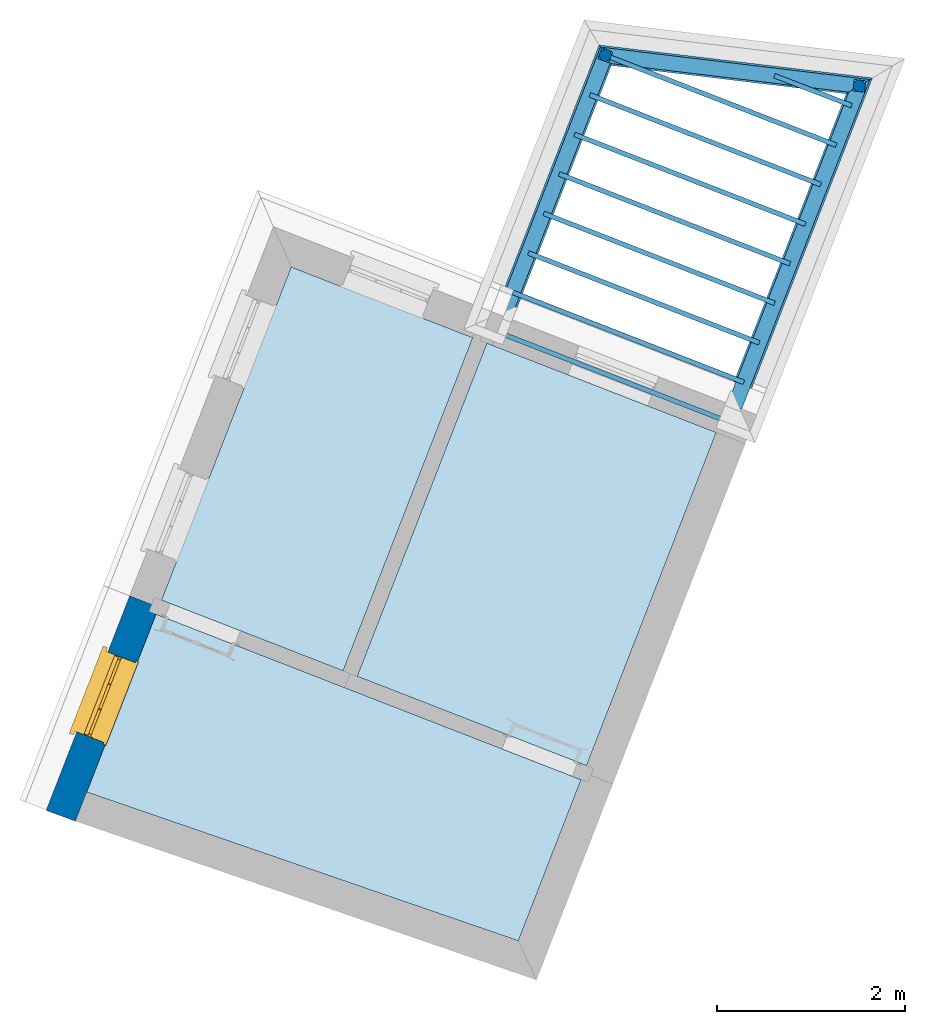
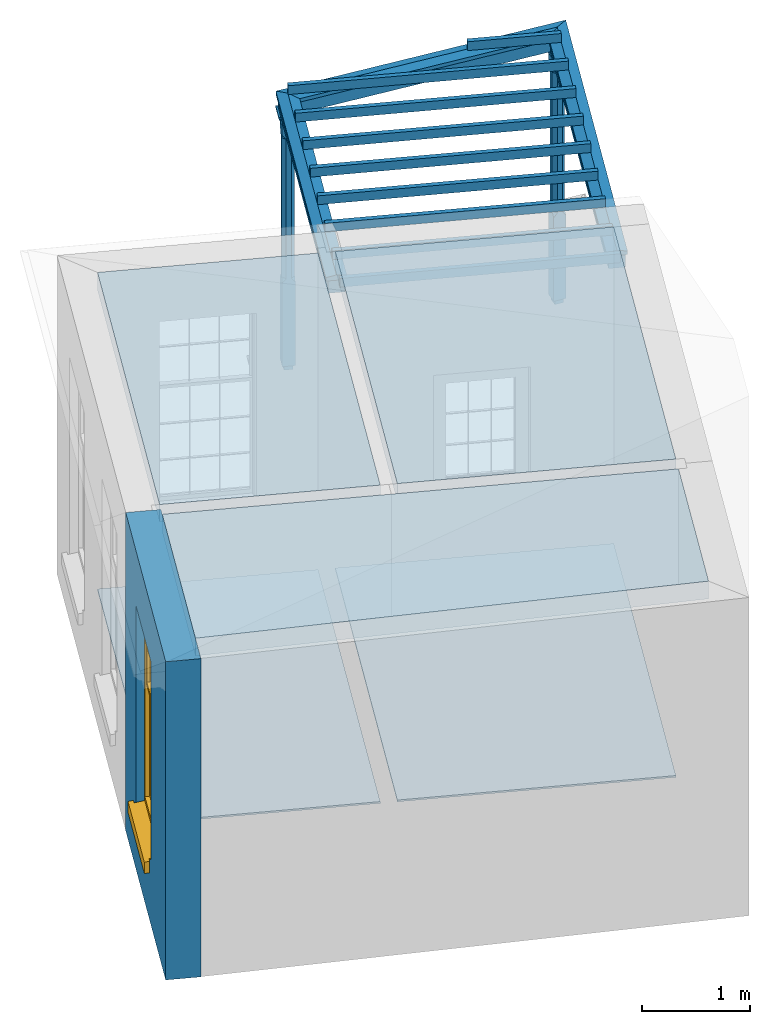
# One storey, part 1 of 4: 15 beams, 5 slabs, 2 columns, 1 wall, 1 window, 1 opening.
"""IFC4 building model written with IfcOpenShell, lengths in metres."""

import ifcopenshell
import ifcopenshell.guid

model = None  # the IFC model being written
_history = None  # IfcOwnerHistory: only IFC2X3 demands one
_inside = {}  # id of a spatial element -> (the spatial element, [elements in it])
_under = {}  # id of a project, library or spatial element -> (it, [spatial elements below it])
_declared = {}  # id of a project -> (the project, [libraries it declares])
_typed = {}  # id of a type object -> (the type object, [elements of that type])
_made_of = {}  # id of a material, layer set ... -> (it, [elements and type objects made of it])


def new_model(schema):
    """Start an empty IFC model of exactly this schema.

    Asked for "IFC4X3", IfcOpenShell would pick the latest addendum, in which some entities
    have other attributes; the version numbers below select the first issue.
    IFC2X3 requires an IfcOwnerHistory on every rooted entity: one is made here for all.
    """
    global model, _history
    if schema == "IFC4X3":
        model = ifcopenshell.file(schema_version=(4, 3, 0, 0))
    else:
        model = ifcopenshell.file(schema=schema)
    _inside.clear()
    _under.clear()
    _declared.clear()
    _typed.clear()
    _made_of.clear()
    _history = None
    if model.schema == "IFC2X3":
        org = make("IfcOrganization", Name="unknown")
        user = make(
            "IfcPersonAndOrganization",
            ThePerson=make("IfcPerson", FamilyName="unknown"),
            TheOrganization=org,
        )
        app = make(
            "IfcApplication",
            ApplicationDeveloper=org,
            Version="unknown",
            ApplicationFullName="unknown",
            ApplicationIdentifier="unknown",
        )
        _history = make(
            "IfcOwnerHistory",
            OwningUser=user,
            OwningApplication=app,
            ChangeAction="ADDED",
            CreationDate=0,
        )
    return model


def make(cls, **values):
    """One entity of the class cls with the attributes given. An attribute that is None is left unset."""
    return model.create_entity(
        cls, **{name: value for name, value in values.items() if value is not None}
    )


def rooted(cls, **values):
    """An entity with a GlobalId (a new one), such as an element, a storey or a relation."""
    return make(cls, GlobalId=ifcopenshell.guid.new(), OwnerHistory=_history, **values)


def si_unit(unit_type, name, prefix=None):
    """IfcSIUnit, for example si_unit("LENGTHUNIT", "METRE", prefix="MILLI")."""
    return make("IfcSIUnit", UnitType=unit_type, Prefix=prefix, Name=name)


def assignment(units):
    """IfcUnitAssignment: the units of a project."""
    return None if units is None else make("IfcUnitAssignment", Units=units)


def point(xyz):
    """IfcCartesianPoint."""
    return None if xyz is None else make("IfcCartesianPoint", Coordinates=xyz)


def direction(xyz):
    """IfcDirection."""
    return None if xyz is None else make("IfcDirection", DirectionRatios=xyz)


def frame(location, z_axis=None, x_axis=None):
    """IfcAxis2Placement3D, a coordinate frame: its origin and axes. An axis left out is left unset."""
    return make(
        "IfcAxis2Placement3D",
        Location=point(location),
        Axis=direction(z_axis),
        RefDirection=direction(x_axis),
    )


def origin():
    """The frame at (0, 0, 0) with its axes left unset."""
    return frame((0.0, 0.0, 0.0))


def origin_with_axes():
    """The frame at (0, 0, 0) with the z axis (0, 0, 1) and the x axis (1, 0, 0) written out."""
    return frame((0.0, 0.0, 0.0), z_axis=(0.0, 0.0, 1.0), x_axis=(1.0, 0.0, 0.0))


def place(relative_to, where):
    """IfcLocalPlacement: puts the frame where relative to a parent placement (None: the world)."""
    return make(
        "IfcLocalPlacement", PlacementRelTo=relative_to, RelativePlacement=where
    )


def context(
    kind, dimensions, precision=None, world=None, true_north=None, identifier=None
):
    """IfcGeometricRepresentationContext, for example the 3D "Model" context."""
    return make(
        "IfcGeometricRepresentationContext",
        ContextIdentifier=identifier,
        ContextType=kind,
        CoordinateSpaceDimension=dimensions,
        Precision=precision,
        WorldCoordinateSystem=world,
        TrueNorth=true_north,
    )


def subcontext(parent, identifier, kind, view, scale=None):
    """IfcGeometricRepresentationSubContext, for example "Body" below "Model"."""
    return make(
        "IfcGeometricRepresentationSubContext",
        ContextIdentifier=identifier,
        ContextType=kind,
        ParentContext=parent,
        TargetScale=scale,
        TargetView=view,
    )


def project(units=None, contexts=None):
    """IfcProject with its units and contexts."""
    return rooted(
        "IfcProject",
        Name="project",
        RepresentationContexts=contexts,
        UnitsInContext=assignment(units),
    )


def spatial(cls, under=None, at=None, **own):
    """A site, building, storey or space (cls), placed at a placement, below another one or the project."""
    s = rooted(cls, ObjectPlacement=at, **own)
    if under is not None:
        _under.setdefault(under.id(), (under, []))[1].append(s)
    return s


def polyline(points):
    """IfcPolyline through the points."""
    return make("IfcPolyline", Points=[point(p) for p in points])


def outline(outer, holes=None, kind="AREA"):
    """IfcArbitraryClosedProfileDef: a profile drawn as a closed curve; with holes, ...WithVoids."""
    if holes is None:
        return make("IfcArbitraryClosedProfileDef", ProfileType=kind, OuterCurve=outer)
    return make(
        "IfcArbitraryProfileDefWithVoids",
        ProfileType=kind,
        OuterCurve=outer,
        InnerCurves=holes,
    )


def extrude(swept, where, along, depth):
    """IfcExtrudedAreaSolid: the profile swept, set in the frame where, extruded along a direction by depth."""
    return make(
        "IfcExtrudedAreaSolid",
        SweptArea=swept,
        Position=where,
        ExtrudedDirection=direction(along),
        Depth=depth,
    )


def clip(a, b, op="DIFFERENCE"):
    """IfcBooleanClippingResult: the solid a cut by the half space b."""
    return make(
        "IfcBooleanClippingResult", Operator=op, FirstOperand=a, SecondOperand=b
    )


def halfspace(plane, agree):
    """IfcHalfSpaceSolid: all space on one side of the plane z = 0 of the frame plane."""
    return make(
        "IfcHalfSpaceSolid",
        BaseSurface=make("IfcPlane", Position=plane),
        AgreementFlag=agree,
    )


def faces_of(points, faces, orient=None, outer=None):
    """IfcFace entities. A face is a list of loops; a loop is a list of indices into points, from 0.

    orient and outer hold one flag for each loop. By default every Orientation is true, the
    first loop of a face is its IfcFaceOuterBound and the others are IfcFaceBound.
    """
    made = []
    for i, loops in enumerate(faces):
        bounds = []
        for j, loop in enumerate(loops):
            is_outer = j == 0 if outer is None else outer[i][j]
            bounds.append(
                make(
                    "IfcFaceOuterBound" if is_outer else "IfcFaceBound",
                    Bound=make("IfcPolyLoop", Polygon=[points[k] for k in loop]),
                    Orientation=True if orient is None else orient[i][j],
                )
            )
        made.append(make("IfcFace", Bounds=bounds))
    return made


def faceted_brep(points, faces, orient=None, outer=None, voids=None):
    """IfcFacetedBrep: a solid bounded by flat faces; with voids (closed shells), ...WithVoids."""
    shared = [point(p) for p in points]
    hull = make("IfcClosedShell", CfsFaces=faces_of(shared, faces, orient, outer))
    if voids is None:
        return make("IfcFacetedBrep", Outer=hull)
    return make(
        "IfcFacetedBrepWithVoids",
        Outer=hull,
        Voids=[
            make(cls, CfsFaces=faces_of(shared, fs, o, b)) for cls, fs, o, b in voids
        ],
    )


def shape(context_of_items, identifier, shape_type, items):
    """IfcShapeRepresentation: the items that make up one representation, for example the "Body"."""
    return make(
        "IfcShapeRepresentation",
        ContextOfItems=context_of_items,
        RepresentationIdentifier=identifier,
        RepresentationType=shape_type,
        Items=items,
    )


def source(mapping_origin, context_of_items, identifier, shape_type, items):
    """IfcRepresentationMap: a shape defined once, which mapped items show again and again."""
    return make(
        "IfcRepresentationMap",
        MappingOrigin=mapping_origin,
        MappedRepresentation=shape(context_of_items, identifier, shape_type, items),
    )


def transform(
    local_origin,
    x_axis=None,
    y_axis=None,
    z_axis=None,
    scale=None,
    scale2=None,
    scale3=None,
    uniform=True,
):
    """IfcCartesianTransformationOperator3D, or its non-uniform kind. x_axis, y_axis, z_axis: its Axis1, 2, 3."""
    if uniform:
        return make(
            "IfcCartesianTransformationOperator3D",
            Axis1=direction(x_axis),
            Axis2=direction(y_axis),
            LocalOrigin=point(local_origin),
            Scale=scale,
            Axis3=direction(z_axis),
        )
    return make(
        "IfcCartesianTransformationOperator3DnonUniform",
        Axis1=direction(x_axis),
        Axis2=direction(y_axis),
        LocalOrigin=point(local_origin),
        Scale=scale,
        Axis3=direction(z_axis),
        Scale2=scale2,
        Scale3=scale3,
    )


def mapped(mapping_source, mapping_target):
    """IfcMappedItem: shows the shape of a source again, moved by a transform."""
    return make(
        "IfcMappedItem", MappingSource=mapping_source, MappingTarget=mapping_target
    )


def material(Name=None, Category=None):
    """IfcMaterial."""
    return make("IfcMaterial", Name=Name, Category=Category)


def layer(
    of_material, thickness, ventilated=None, Name=None, Category=None, Priority=None
):
    """IfcMaterialLayer: one layer of a wall or slab, of a material (None: an air gap)."""
    return make(
        "IfcMaterialLayer",
        Material=of_material,
        LayerThickness=thickness,
        IsVentilated=ventilated,
        Name=Name,
        Category=Category,
        Priority=Priority,
    )


def layer_set(layers, Name=None):
    """IfcMaterialLayerSet."""
    return make("IfcMaterialLayerSet", MaterialLayers=layers, LayerSetName=Name)


def layer_usage(for_layer_set, set_direction, sense, offset, extent=None):
    """IfcMaterialLayerSetUsage: how a layer set lies in its element."""
    return make(
        "IfcMaterialLayerSetUsage",
        ForLayerSet=for_layer_set,
        LayerSetDirection=set_direction,
        DirectionSense=sense,
        OffsetFromReferenceLine=offset,
        ReferenceExtent=extent,
    )


def material_profile(
    of_material, cross_section, Name=None, Category=None, Priority=None
):
    """IfcMaterialProfile: a cross section and its material."""
    return make(
        "IfcMaterialProfile",
        Name=Name,
        Material=of_material,
        Profile=cross_section,
        Priority=Priority,
        Category=Category,
    )


def profile_set(profiles, Name=None, composite=None):
    """IfcMaterialProfileSet."""
    return make(
        "IfcMaterialProfileSet",
        Name=Name,
        MaterialProfiles=profiles,
        CompositeProfile=composite,
    )


def profile_usage(for_profile_set, cardinal=None, extent=None):
    """IfcMaterialProfileSetUsage: how a profile set lies along its element."""
    return make(
        "IfcMaterialProfileSetUsage",
        ForProfileSet=for_profile_set,
        CardinalPoint=cardinal,
        ReferenceExtent=extent,
    )


def made_of(thing, what):
    """Note that an element or type object is made of a material, layer set ...; save() writes the relation."""
    if what is not None:
        _made_of.setdefault(what.id(), (what, []))[1].append(thing)
    return thing


def type_object(cls, material=None, **own):
    """A type object (cls), such as IfcWallType, which elements share."""
    return made_of(rooted(cls, **own), material)


def type_shapes(of_type, sources):
    """Give a type object the sources (RepresentationMaps) that its elements show as mapped items."""
    of_type.RepresentationMaps = sources


def element(
    cls,
    number,
    at=None,
    inside=None,
    cuts=None,
    type_object=None,
    material=None,
    context=None,
    identifier="Body",
    shape_type=None,
    held_by="IfcProductDefinitionShape",
    body=None,
    shapes=None,
    **own,
):
    """One element of the class cls, such as IfcWall. Its Tag is "e" and its number.

    at: its placement. inside: the storey or other place that contains it. cuts: it is an
    opening in that element (IfcRelVoidsElement). A single representation is given by context,
    identifier, shape_type and body (its items); several are given by shapes. held_by: the class
    of the entity that holds the representations. save() writes the other relations.
    """
    e = rooted(cls, Tag="e%d" % number, ObjectPlacement=at, **own)
    if body is not None:
        shapes = [shape(context, identifier, shape_type, body)]
    if shapes is not None:
        e.Representation = make(held_by, Representations=shapes)
    if inside is not None:
        _inside.setdefault(inside.id(), (inside, []))[1].append(e)
    if cuts is not None:
        rooted(
            "IfcRelVoidsElement", RelatingBuildingElement=cuts, RelatedOpeningElement=e
        )
    if type_object is not None:
        _typed.setdefault(type_object.id(), (type_object, []))[1].append(e)
    return made_of(e, material)


def fill(opening, filler):
    """IfcRelFillsElement: the door or window that sits in an opening."""
    return rooted(
        "IfcRelFillsElement",
        RelatingOpeningElement=opening,
        RelatedBuildingElement=filler,
    )


def aggregate(whole, parts):
    """IfcRelAggregates: a whole, such as a stair, and the parts it consists of."""
    return rooted("IfcRelAggregates", RelatingObject=whole, RelatedObjects=parts)


def save(model, path):
    """Write the relations noted so far, then the file.

    IfcRelAggregates (storeys below a building ...), IfcRelContainedInSpatialStructure (elements
    in a storey), IfcRelDefinesByType, IfcRelAssociatesMaterial and IfcRelDeclares: one each for
    every whole, place, type object, material and project.
    """
    for whole, parts in _under.values():
        aggregate(whole, parts)
    for where, things in _inside.values():
        rooted(
            "IfcRelContainedInSpatialStructure",
            RelatedElements=things,
            RelatingStructure=where,
        )
    for kind, things in _typed.values():
        rooted("IfcRelDefinesByType", RelatedObjects=things, RelatingType=kind)
    for what, things in _made_of.values():
        rooted("IfcRelAssociatesMaterial", RelatedObjects=things, RelatingMaterial=what)
    for by, libraries in _declared.values():
        rooted("IfcRelDeclares", RelatingContext=by, RelatedDefinitions=libraries)
    model.write(path)


model = new_model("IFC4")

# Units and contexts
model_context = context("Model", 3, world=origin_with_axes())
body_context = subcontext(model_context, "Body", "Model", "MODEL_VIEW")
ifc_project = project(units=[si_unit("PLANEANGLEUNIT", "RADIAN"), si_unit("MASSUNIT", "GRAM", prefix="KILO"), si_unit("FORCEUNIT", "NEWTON", prefix="KILO"), si_unit("LENGTHUNIT", "METRE"), si_unit("AREAUNIT", "SQUARE_METRE"), si_unit("VOLUMEUNIT", "CUBIC_METRE")], contexts=[model_context, model_context])

# Sites, building, storey
site_1_placement = place(None, origin_with_axes())
site_1 = spatial("IfcSite", under=ifc_project, at=site_1_placement, Name="Tamar")
site_2_placement = place(site_1_placement, origin_with_axes())
site_2 = spatial("IfcSite", under=site_1, at=site_2_placement, Name="Site plot-9", CompositionType="ELEMENT")
building_placement = place(None, origin_with_axes())
building = spatial("IfcBuilding", under=site_2, at=building_placement, Name="Building plot-9", CompositionType="ELEMENT")
storey_placement = place(None, frame((0.0, 0.0, 30.1), z_axis=(0.0, 0.0, 1.0), x_axis=(1.0, 0.0, 0.0)))
storey = spatial("IfcBuildingStorey", under=building, at=storey_placement, Name="plot-9 1", CompositionType="ELEMENT", Elevation=30.1)

# Columns
column_type = type_object("IfcColumnType", Name="pergola post", PredefinedType="NOTDEFINED")
shared_shape_1 = source(origin(), body_context, "Body", "Brep", [
    faceted_brep([(0.0246, -0.0615, 2.62), (0.0615, -0.0246, 2.62), (0.0615, -0.0615, 2.666667), (0.0615, -0.0246, 1.044444), (0.0246, -0.0615, 1.044444), (0.0615, 0.0246, 2.62), (0.0615, 0.0615, 2.666667), (-0.0246, -0.0615, 2.62), (-0.0615, -0.0615, 2.666667), (-0.0246, -0.0615, 1.044444), (0.0615, -0.0615, 0.997778), (0.0615, 0.0246, 1.044444), (0.0246, 0.0615, 2.62), (0.0615, 0.0615, 2.791111), (0.0615, -0.0615, 2.791111), (-0.0615, -0.0615, 2.791111), (-0.0615, -0.0246, 2.62), (-0.0615, -0.0246, 1.044444), (-0.0615, -0.0615, 0.997778), (0.0615, 0.0615, 0.997778), (0.0246, 0.0615, 1.044444), (-0.0246, 0.0615, 2.62), (-0.0615, 0.0615, 2.666667), (0.04305, 0.04305, 2.791111), (0.04305, -0.04305, 2.791111), (-0.0615, 0.0615, 2.791111), (-0.04305, -0.04305, 2.791111), (-0.0615, 0.0246, 2.62), (-0.0615, 0.0246, 1.044444), (0.0615, -0.0615, 0.053333), (-0.0615, -0.0615, 0.053333), (0.0615, 0.0615, 0.053333), (-0.0246, 0.0615, 1.044444), (-0.04305, 0.04305, 2.791111), (0.04305, 0.04305, 2.814444), (0.04305, -0.04305, 2.814444), (-0.04305, -0.04305, 2.814444), (-0.0615, 0.0615, 0.997778), (-0.0615, 0.0615, 0.053333), (-0.04305, -0.04305, 0.053333), (0.04305, -0.04305, 0.053333), (0.04305, 0.04305, 0.053333), (-0.04305, 0.04305, 2.814444), (0.07995, 0.07995, 2.814444), (0.07995, -0.07995, 2.814444), (-0.07995, -0.07995, 2.814444), (-0.04305, 0.04305, 0.053333), (-0.04305, -0.04305, 0.0), (0.04305, -0.04305, 0.0), (0.04305, 0.04305, 0.0), (-0.07995, 0.07995, 2.814444), (0.07995, 0.07995, 2.876667), (0.07995, -0.07995, 2.876667), (-0.07995, -0.07995, 2.876667), (-0.04305, 0.04305, 0.0), (-0.07995, 0.07995, 2.876667), (0.0984, 0.0984, 2.876667), (0.0984, -0.0984, 2.876667), (-0.0984, -0.0984, 2.876667), (-0.0984, 0.0984, 2.876667), (0.0984, 0.0984, 2.9), (0.0984, -0.0984, 2.9), (-0.0984, -0.0984, 2.9), (-0.0984, 0.0984, 2.9)], [[[0, 1, 2]], [[3, 1, 0, 4]], [[1, 5, 6, 2]], [[7, 0, 2, 8]], [[4, 0, 7, 9]], [[3, 4, 10]], [[1, 3, 11, 5]], [[5, 12, 6]], [[13, 14, 2, 6]], [[15, 8, 2, 14]], [[8, 16, 7]], [[9, 7, 16, 17]], [[9, 18, 10, 4]], [[3, 10, 19, 11]], [[20, 12, 5, 11]], [[21, 22, 6, 12]], [[14, 13, 23, 24]], [[13, 6, 22, 25]], [[25, 22, 8, 15]], [[26, 15, 14, 24]], [[16, 8, 22, 27]], [[27, 28, 17, 16]], [[17, 18, 9]], [[29, 10, 18, 30]], [[31, 19, 10, 29]], [[20, 11, 19]], [[12, 20, 32, 21]], [[21, 27, 22]], [[33, 23, 13, 25]], [[23, 34, 35, 24]], [[26, 33, 25, 15]], [[36, 26, 24, 35]], [[28, 27, 21, 32]], [[17, 28, 37, 18]], [[38, 30, 18, 37]], [[29, 30, 39, 40]], [[31, 38, 37, 19]], [[40, 41, 31, 29]], [[32, 20, 19, 37]], [[33, 42, 34, 23]], [[43, 44, 35, 34]], [[42, 33, 26, 36]], [[36, 35, 44, 45]], [[28, 32, 37]], [[46, 39, 30, 38]], [[39, 47, 48, 40]], [[46, 38, 31, 41]], [[49, 41, 40, 48]], [[43, 34, 42, 50]], [[43, 51, 52, 44]], [[45, 50, 42, 36]], [[53, 45, 44, 52]], [[46, 54, 47, 39]], [[54, 46, 41, 49]], [[50, 55, 51, 43]], [[56, 57, 52, 51]], [[55, 50, 45, 53]], [[53, 52, 57, 58]], [[56, 51, 55, 59]], [[56, 60, 61, 57]], [[58, 59, 55, 53]], [[62, 58, 57, 61]], [[59, 63, 60, 56]], [[63, 62, 61, 60]], [[58, 62, 63, 59]], [[47, 54, 49, 48]]]),
])
type_shapes(column_type, [shared_shape_1])
for number, where, z_axis, x_axis, name in (
    (1, (231.923680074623, 322.713005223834, 0.0), (0.0, 0.0, 1.0), (-0.992835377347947, 0.119490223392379, 0.0), "pergola post"),
    (2, (229.22819960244, 323.037413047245, 0.0), (0.0, 0.0, 1.0), (-0.362808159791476, -0.931863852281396, 0.0), "pergola post"),
):
    element("IfcColumn", number, at=place(storey_placement, frame(where, z_axis=z_axis, x_axis=x_axis)), inside=storey, type_object=column_type, Name=name, context=body_context, shape_type="MappedRepresentation", body=[
        mapped(shared_shape_1, transform((0.0, 0.0, 0.0), scale=1.0)),
    ])

# Beams
ifc_material_profile_1 = material_profile(None, outline(polyline([(-0.08, -0.7), (0.08, -0.7), (0.08, -0.56), (-0.08, -0.56), (-0.08, -0.7)])))
ifc_profile_set_1 = profile_set([ifc_material_profile_1])
ifc_profile_usage_1 = profile_usage(ifc_profile_set_1)
beam_type_1 = type_object("IfcBeamType", Name="pergola beam_0", PredefinedType="NOTDEFINED", material=ifc_profile_set_1)
beam_1_placement = place(storey_placement, frame((232.286488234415, 323.644869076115, 3.6), z_axis=(-0.362808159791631, -0.931863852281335, 0.0), x_axis=(0.931863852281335, -0.362808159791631, 0.0)))
element("IfcBeam", 3, at=beam_1_placement, inside=storey, type_object=beam_type_1, material=ifc_profile_usage_1, Name="pergola beam_0", context=body_context, shape_type="Clipping", body=[
    clip(clip(extrude(outline(polyline([(-0.08, -0.7), (0.08, -0.7), (0.08, -0.56), (-0.08, -0.56), (-0.08, -0.7)])), origin_with_axes(), (0.0, 0.0, 1.0), 5.64762004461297), halfspace(frame((0.0, 0.0, 4.64762004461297), z_axis=(2.05889159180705e-14, 0.0, -1.0), x_axis=(0.0, 1.0, 0.0)), True)), halfspace(frame((0.0, 0.0, 1.0), z_axis=(-0.79020888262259, 0.0, -0.612837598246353), x_axis=(0.0, 1.0, 0.0)), False)),
])
ifc_profile_usage_2 = profile_usage(ifc_profile_set_1)
beam_2_placement = place(storey_placement, frame((228.235364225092, 323.156903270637, 3.6), z_axis=(0.992835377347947, -0.119490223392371, 0.0), x_axis=(0.119490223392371, 0.992835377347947, 0.0)))
element("IfcBeam", 4, at=beam_2_placement, inside=storey, type_object=beam_type_1, material=ifc_profile_usage_2, Name="pergola beam_0", context=body_context, shape_type="Clipping", body=[
    clip(clip(extrude(outline(polyline([(-0.08, -0.7), (0.08, -0.7), (0.08, -0.56), (-0.08, -0.56), (-0.08, -0.7)])), origin_with_axes(), (0.0, 0.0, 1.0), 4.71493193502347), halfspace(frame((0.0, 0.0, 3.71493193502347), z_axis=(0.790208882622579, 0.0, -0.612837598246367), x_axis=(0.0, 1.0, 0.0)), True)), halfspace(frame((0.0, 0.0, 1.0), z_axis=(-0.612837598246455, 0.0, -0.790208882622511), x_axis=(0.0, 1.0, 0.0)), False)),
])
ifc_profile_usage_3 = profile_usage(ifc_profile_set_1)
beam_3_placement = place(storey_placement, frame((227.787132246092, 319.336066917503, 3.6), z_axis=(0.362808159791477, 0.931863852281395, 0.0), x_axis=(-0.931863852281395, 0.362808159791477, 0.0)))
element("IfcBeam", 5, at=beam_3_placement, inside=storey, type_object=beam_type_1, material=ifc_profile_usage_3, Name="pergola beam_0", context=body_context, shape_type="Clipping", body=[
    clip(clip(extrude(outline(polyline([(-0.08, -0.7), (0.08, -0.7), (0.08, -0.56), (-0.08, -0.56), (-0.08, -0.7)])), origin_with_axes(), (0.0, 0.0, 1.0), 4.97198165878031), halfspace(frame((0.0, 0.0, 3.97198165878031), z_axis=(0.612837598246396, 0.0, -0.790208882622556), x_axis=(0.0, 1.0, 0.0)), True)), halfspace(frame((0.0, 0.0, 1.0), z_axis=(7.04419501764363e-15, 0.0, -1.0), x_axis=(0.0, 1.0, 0.0)), False)),
])
ifc_material_profile_2 = material_profile(None, outline(polyline([(0.0, -0.5), (-0.1, -0.52), (-0.1, -0.56), (0.1, -0.56), (0.1, -0.52), (0.0, -0.5)])))
ifc_profile_set_2 = profile_set([ifc_material_profile_2])
ifc_profile_usage_4 = profile_usage(ifc_profile_set_2)
beam_type_2 = type_object("IfcBeamType", Name="pergola beam_1", PredefinedType="NOTDEFINED", material=ifc_profile_set_2)
beam_4_placement = place(storey_placement, frame((232.286488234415, 323.644869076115, 3.6), z_axis=(-0.362808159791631, -0.931863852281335, 0.0), x_axis=(0.931863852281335, -0.362808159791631, 0.0)))
element("IfcBeam", 6, at=beam_4_placement, inside=storey, type_object=beam_type_2, material=ifc_profile_usage_4, Name="pergola beam_1", context=body_context, shape_type="Clipping", body=[
    clip(clip(extrude(outline(polyline([(0.0, -0.5), (-0.1, -0.52), (-0.1, -0.56), (0.1, -0.56), (0.1, -0.52), (0.0, -0.5)])), origin_with_axes(), (0.0, 0.0, 1.0), 5.64762004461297), halfspace(frame((0.0, 0.0, 4.64762004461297), z_axis=(2.05889159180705e-14, 0.0, -1.0), x_axis=(0.0, 1.0, 0.0)), True)), halfspace(frame((0.0, 0.0, 1.0), z_axis=(-0.79020888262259, 0.0, -0.612837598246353), x_axis=(0.0, 1.0, 0.0)), False)),
])
ifc_profile_usage_5 = profile_usage(ifc_profile_set_2)
beam_5_placement = place(storey_placement, frame((228.235364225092, 323.156903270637, 3.6), z_axis=(0.992835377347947, -0.119490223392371, 0.0), x_axis=(0.119490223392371, 0.992835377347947, 0.0)))
element("IfcBeam", 7, at=beam_5_placement, inside=storey, type_object=beam_type_2, material=ifc_profile_usage_5, Name="pergola beam_1", context=body_context, shape_type="Clipping", body=[
    clip(clip(extrude(outline(polyline([(0.0, -0.5), (-0.1, -0.52), (-0.1, -0.56), (0.1, -0.56), (0.1, -0.52), (0.0, -0.5)])), origin_with_axes(), (0.0, 0.0, 1.0), 4.71493193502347), halfspace(frame((0.0, 0.0, 3.71493193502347), z_axis=(0.790208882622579, 0.0, -0.612837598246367), x_axis=(0.0, 1.0, 0.0)), True)), halfspace(frame((0.0, 0.0, 1.0), z_axis=(-0.612837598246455, 0.0, -0.790208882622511), x_axis=(0.0, 1.0, 0.0)), False)),
])
ifc_profile_usage_6 = profile_usage(ifc_profile_set_2)
beam_6_placement = place(storey_placement, frame((227.787132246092, 319.336066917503, 3.6), z_axis=(0.362808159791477, 0.931863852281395, 0.0), x_axis=(-0.931863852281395, 0.362808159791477, 0.0)))
element("IfcBeam", 8, at=beam_6_placement, inside=storey, type_object=beam_type_2, material=ifc_profile_usage_6, Name="pergola beam_1", context=body_context, shape_type="Clipping", body=[
    clip(clip(extrude(outline(polyline([(0.0, -0.5), (-0.1, -0.52), (-0.1, -0.56), (0.1, -0.56), (0.1, -0.52), (0.0, -0.5)])), origin_with_axes(), (0.0, 0.0, 1.0), 4.97198165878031), halfspace(frame((0.0, 0.0, 3.97198165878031), z_axis=(0.612837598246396, 0.0, -0.790208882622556), x_axis=(0.0, 1.0, 0.0)), True)), halfspace(frame((0.0, 0.0, 1.0), z_axis=(7.04419501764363e-15, 0.0, -1.0), x_axis=(0.0, 1.0, 0.0)), False)),
])
beam_7_placement = place(storey_placement, frame((231.03255888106, 322.844642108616, 3.1)))
element("IfcBeam", 9, at=beam_7_placement, inside=storey, Name="My Beam", ObjectType="Beam", context=body_context, shape_type="SweptSolid", body=[
    extrude(outline(polyline([(0.0, 0.0), (-0.0181404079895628, -0.0465931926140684), (0.800187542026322, -0.365197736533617), (0.818327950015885, -0.318604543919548), (0.0, 0.0)])), origin_with_axes(), (0.0, 0.0, 1.0), 0.1),
])
beam_8_placement = place(storey_placement, frame((229.237269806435, 323.060709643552, 3.1)))
element("IfcBeam", 10, at=beam_8_placement, inside=storey, Name="My Beam", ObjectType="Beam", context=body_context, shape_type="SweptSolid", body=[
    extrude(outline(polyline([(0.0, 0.0), (-0.0181404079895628, -0.0465931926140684), (2.43221294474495, -1.00060400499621), (2.45035335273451, -0.954010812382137), (0.0, 0.0)])), origin_with_axes(), (0.0, 0.0, 1.0), 0.1),
])
beam_9_placement = place(storey_placement, frame((229.074006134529, 322.641370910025, 3.1)))
element("IfcBeam", 11, at=beam_9_placement, inside=storey, Name="My Beam", ObjectType="Beam", context=body_context, shape_type="SweptSolid", body=[
    extrude(outline(polyline([(0.0, 0.0), (-0.0181404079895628, -0.0465931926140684), (2.43221294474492, -1.00060400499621), (2.45035335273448, -0.954010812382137), (0.0, 0.0)])), origin_with_axes(), (0.0, 0.0, 1.0), 0.1),
])
beam_10_placement = place(storey_placement, frame((228.910742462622, 322.222032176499, 3.1)))
element("IfcBeam", 12, at=beam_10_placement, inside=storey, Name="My Beam", ObjectType="Beam", context=body_context, shape_type="SweptSolid", body=[
    extrude(outline(polyline([(0.0, 0.0), (-0.0181404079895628, -0.0465931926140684), (2.43221294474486, -1.00060400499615), (2.45035335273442, -0.95401081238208), (0.0, 0.0)])), origin_with_axes(), (0.0, 0.0, 1.0), 0.1),
])
beam_11_placement = place(storey_placement, frame((228.747478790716, 321.802693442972, 3.1)))
element("IfcBeam", 13, at=beam_11_placement, inside=storey, Name="My Beam", ObjectType="Beam", context=body_context, shape_type="SweptSolid", body=[
    extrude(outline(polyline([(0.0, 0.0), (-0.0181404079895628, -0.0465931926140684), (2.43221294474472, -1.00060400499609), (2.45035335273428, -0.954010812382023), (0.0, 0.0)])), origin_with_axes(), (0.0, 0.0, 1.0), 0.1),
])
beam_12_placement = place(storey_placement, frame((228.58421511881, 321.383354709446, 3.1)))
element("IfcBeam", 14, at=beam_12_placement, inside=storey, Name="My Beam", ObjectType="Beam", context=body_context, shape_type="SweptSolid", body=[
    extrude(outline(polyline([(0.0, 0.0), (-0.0181404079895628, -0.0465931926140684), (2.43221294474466, -1.00060400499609), (2.45035335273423, -0.954010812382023), (0.0, 0.0)])), origin_with_axes(), (0.0, 0.0, 1.0), 0.1),
])
beam_13_placement = place(storey_placement, frame((228.420951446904, 320.964015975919, 3.1)))
element("IfcBeam", 15, at=beam_13_placement, inside=storey, Name="My Beam", ObjectType="Beam", context=body_context, shape_type="SweptSolid", body=[
    extrude(outline(polyline([(0.0, 0.0), (-0.0181404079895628, -0.0465931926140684), (2.43221294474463, -1.00060400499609), (2.4503533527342, -0.954010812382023), (0.0, 0.0)])), origin_with_axes(), (0.0, 0.0, 1.0), 0.1),
])
beam_14_placement = place(storey_placement, frame((228.257687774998, 320.544677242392, 3.1)))
element("IfcBeam", 16, at=beam_14_placement, inside=storey, Name="My Beam", ObjectType="Beam", context=body_context, shape_type="SweptSolid", body=[
    extrude(outline(polyline([(0.0, 0.0), (-0.0181404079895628, -0.0465931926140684), (2.43221294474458, -1.00060400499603), (2.45035335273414, -0.954010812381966), (0.0, 0.0)])), origin_with_axes(), (0.0, 0.0, 1.0), 0.1),
])
beam_15_placement = place(storey_placement, frame((228.094424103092, 320.125338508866, 3.1)))
element("IfcBeam", 17, at=beam_15_placement, inside=storey, Name="My Beam", ObjectType="Beam", context=body_context, shape_type="SweptSolid", body=[
    extrude(outline(polyline([(0.0, 0.0), (-0.0181404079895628, -0.0465931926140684), (2.43221294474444, -1.00060400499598), (2.450353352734, -0.95401081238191), (0.0, 0.0)])), origin_with_axes(), (0.0, 0.0, 1.0), 0.1),
])

# Slabs
slab_1_placement = place(storey_placement, frame((226.596099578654, 316.448435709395, 3.4)))
element("IfcSlab", 18, at=slab_1_placement, inside=storey, Name="My Slab", ObjectType="Slab", PredefinedType="FLOOR", context=body_context, shape_type="SweptSolid", body=[
    extrude(outline(polyline([(0.0, 0.0), (2.43378865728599, -0.947561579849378), (3.80991837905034, 2.58699382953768), (1.37612972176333, 3.53455540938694), (0.0, 0.0)])), origin_with_axes(), (0.0, 0.0, 1.0), 0.2),
])
slab_2_placement = place(storey_placement, frame((226.596099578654, 316.448435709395, 0.0)))
element("IfcSlab", 19, at=slab_2_placement, inside=storey, Name="My Slab", ObjectType="Slab", PredefinedType="FLOOR", context=body_context, shape_type="SweptSolid", body=[
    extrude(outline(polyline([(0.0, 0.0), (2.43378865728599, -0.947561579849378), (3.80991837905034, 2.58699382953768), (1.37612972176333, 3.53455540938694), (0.0, 0.0)])), origin_with_axes(), (0.0, 0.0, 1.0), 0.02),
])
slab_3_placement = place(storey_placement, frame((227.823131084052, 320.041040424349, 3.4)))
element("IfcSlab", 20, at=slab_3_placement, inside=storey, Name="My Slab", ObjectType="Slab", PredefinedType="FLOOR", context=body_context, shape_type="SweptSolid", body=[
    extrude(outline(polyline([(0.0, 0.0), (-1.92733417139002, 0.750380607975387), (-3.30346389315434, -2.78417480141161), (-1.37612972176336, -3.534555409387), (0.0, 0.0)])), origin_with_axes(), (0.0, 0.0, 1.0), 0.2),
])
slab_4_placement = place(storey_placement, frame((227.823131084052, 320.041040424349, 0.0)))
element("IfcSlab", 21, at=slab_4_placement, inside=storey, Name="My Slab", ObjectType="Slab", PredefinedType="FLOOR", context=body_context, shape_type="SweptSolid", body=[
    extrude(outline(polyline([(0.0, 0.0), (-1.92733417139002, 0.750380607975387), (-3.30346389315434, -2.78417480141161), (-1.37612972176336, -3.534555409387), (0.0, 0.0)])), origin_with_axes(), (0.0, 0.0, 1.0), 0.02),
])
slab_5_placement = place(storey_placement, frame((224.461617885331, 317.107767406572, 3.4)))
element("IfcSlab", 22, at=slab_5_placement, inside=storey, Name="My Slab", ObjectType="Slab", PredefinedType="FLOOR", context=body_context, shape_type="SweptSolid", body=[
    extrude(outline(polyline([(0.0, 0.0), (-0.734966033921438, -1.88774221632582), (3.84438262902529, -3.4661811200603), (4.51022104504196, -1.75599149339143), (0.0, 0.0)])), origin_with_axes(), (0.0, 0.0, 1.0), 0.2),
])

# Wall, opening, window
ifc_material = material(Name="Masonry")
ifc_layer = layer(ifc_material, 0.33, ventilated=False)
ifc_layer_set = layer_set([ifc_layer], Name="exterior_0.08_0.25")
ifc_layer_usage = layer_usage(ifc_layer_set, "AXIS2", "POSITIVE", -0.25)
wall_type = type_object("IfcWallType", Name="exterior_0.08_0.25", PredefinedType="SOLIDWALL", material=ifc_layer_set)
wall_placement = place(storey_placement, frame((224.416093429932, 317.211341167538, 0.0), z_axis=(0.0, 0.0, 1.0), x_axis=(-0.36280815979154, -0.931863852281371, 0.0)))
wall = element("IfcWall", 23, at=wall_placement, inside=storey, type_object=wall_type, material=ifc_layer_usage, Name="exterior", context=body_context, shape_type="SweptSolid", body=[
    extrude(outline(polyline([(1.07144995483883e-14, 0.0800000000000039), (-1.03457477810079e-13, -0.250000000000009), (2.43898171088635, -0.249999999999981), (2.43898171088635, 0.0800000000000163), (1.07144995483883e-14, 0.0800000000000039)])), origin_with_axes(), (0.0, 0.0, 1.0), 3.6),
])
opening_placement = place(wall_placement, frame((0.639490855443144, 0.0, 0.75)))
opening = element("IfcOpeningElement", 24, at=opening_placement, cuts=wall, Name="My Opening", ObjectType="Opening", context=body_context, shape_type="SweptSolid", body=[
    extrude(outline(polyline([(0.0, -0.270000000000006), (0.910000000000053, -0.269999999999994), (0.910000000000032, 1.09999999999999), (-2.1538326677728e-14, 1.09999999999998), (0.0, -0.270000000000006)])), origin_with_axes(), (0.0, 0.0, 1.0), 2.23),
])
window_type = type_object("IfcWindowType", Name="sash_big_taller", PartitioningType="DOUBLE_PANEL_HORIZONTAL", PredefinedType="NOTDEFINED")
shared_shape_2 = source(origin(), body_context, "Body", "Brep", [
    faceted_brep([(0.033125, 0.145, 1.385209), (0.01, 0.145, 1.385209), (0.033125, 0.145, 1.786042), (0.876875, 0.145, 1.385209), (0.876875, 0.145, 1.786042), (0.9, 0.145, 1.385209), (0.876875, 0.145, 1.796042), (0.876875, 0.145, 2.196875), (0.9, 0.145, 2.22), (0.033125, 0.145, 2.196875), (0.033125, 0.145, 1.796042), (0.01, 0.145, 2.22), (0.876875, 0.115, 1.786042), (0.876875, 0.115, 1.385209), (0.9, 0.115, 1.347084), (0.033125, 0.115, 2.196875), (0.01, 0.115, 2.22), (0.033125, 0.115, 1.796042), (0.01, 0.115, 1.347084), (0.033125, 0.115, 1.385209), (0.033125, 0.115, 1.786042), (0.876875, 0.115, 2.196875), (0.876875, 0.115, 1.796042), (0.9, 0.115, 2.22), (0.033125, 0.145, 1.347084), (0.01, 0.145, 1.347084), (0.033125, 0.145, 0.94625), (0.876875, 0.145, 1.347084), (0.876875, 0.145, 0.94625), (0.9, 0.145, 1.347084), (0.876875, 0.145, 0.52625), (0.876875, 0.145, 0.125417), (0.9, 0.145, 0.077167), (0.033125, 0.145, 0.125417), (0.033125, 0.145, 0.52625), (0.01, 0.145, 0.077167), (-0.0425, 0.0, 0.01), (-0.0425, -0.05, 0.001667), (0.0, 0.0, 0.01), (0.9525, 0.0, 0.01), (0.91, 0.0, 0.01), (0.9525, -0.05, 0.001667), (-0.02, 0.33, 0.077167), (0.0, 0.33, 0.077167), (-0.02, 0.36, 0.077167), (0.0, 0.19, 0.077167), (0.01, 0.19, 0.077167), (0.91, 0.19, 0.077167), (0.91, 0.33, 0.077167), (0.9, 0.19, 0.077167), (0.93, 0.33, 0.077167), (0.93, 0.36, 0.077167), (0.01, 0.175, 1.385209), (0.9, 0.175, 1.385209), (0.876875, 0.175, 0.125417), (0.876875, 0.175, 0.52625), (0.9, 0.175, 0.077167), (0.876875, 0.175, 0.94625), (0.876875, 0.175, 1.347084), (0.033125, 0.175, 0.125417), (0.01, 0.175, 0.077167), (0.033125, 0.175, 0.52625), (0.033125, 0.175, 1.347084), (0.033125, 0.175, 0.94625), (-0.02, 0.33, 0.052167), (-0.02, 0.36, 0.052167), (0.93, 0.36, 0.052167), (0.93, 0.33, 0.052167), (0.91, 0.33, 0.052167), (0.0, 0.33, 0.052167), (0.91, 0.1, 0.026667), (0.0, 0.1, 0.026667), (-0.0425, -0.05, -0.123333), (0.9525, -0.05, -0.123333), (-0.0425, 0.0, -0.123333), (0.9525, 0.0, -0.123333), (0.01, 0.19, 2.22), (0.9, 0.19, 2.22), (0.0, 0.19, 2.23), (0.91, 0.19, 2.23), (0.01, 0.1, 0.077167), (0.9, 0.1, 0.077167), (0.592292, 0.145, 0.125417), (0.592292, 0.175, 0.125417), (0.317708, 0.175, 0.125417), (0.317708, 0.145, 0.125417), (0.592292, 0.145, 0.53625), (0.317708, 0.145, 0.53625), (0.317708, 0.145, 0.52625), (0.592292, 0.145, 0.52625), (0.592292, 0.175, 0.53625), (0.317708, 0.175, 0.53625), (0.592292, 0.115, 1.796042), (0.592292, 0.145, 1.796042), (0.317708, 0.145, 1.796042), (0.317708, 0.115, 1.796042), (0.317708, 0.115, 1.786042), (0.592292, 0.115, 1.786042), (0.317708, 0.145, 1.786042), (0.592292, 0.145, 1.786042), (0.602292, 0.115, 1.786042), (0.592292, 0.115, 1.385209), (0.602292, 0.115, 1.385209), (0.602292, 0.145, 1.385209), (0.592292, 0.145, 1.385209), (0.602292, 0.145, 1.786042), (0.876875, 0.145, 0.53625), (0.876875, 0.175, 0.53625), (0.602292, 0.175, 0.53625), (0.602292, 0.145, 0.53625), (0.317708, 0.175, 0.52625), (0.307708, 0.175, 0.125417), (0.307708, 0.175, 0.52625), (0.602292, 0.175, 0.52625), (0.602292, 0.175, 0.125417), (0.592292, 0.175, 0.52625), (0.307708, 0.175, 0.53625), (0.033125, 0.175, 0.53625), (0.317708, 0.175, 1.347084), (0.317708, 0.175, 0.94625), (0.307708, 0.175, 0.94625), (0.307708, 0.175, 1.347084), (0.602292, 0.175, 1.347084), (0.602292, 0.175, 0.94625), (0.592292, 0.175, 0.94625), (0.592292, 0.175, 1.347084), (0.307708, 0.145, 0.52625), (0.307708, 0.145, 0.125417), (0.307708, 0.145, 0.53625), (0.033125, 0.145, 0.53625), (0.307708, 0.145, 1.347084), (0.307708, 0.145, 0.94625), (0.592292, 0.145, 1.347084), (0.592292, 0.145, 0.94625), (0.317708, 0.145, 0.94625), (0.317708, 0.145, 1.347084), (0.602292, 0.145, 0.94625), (0.602292, 0.145, 1.347084), (0.602292, 0.145, 0.52625), (0.602292, 0.145, 0.125417), (0.307708, 0.115, 1.796042), (0.307708, 0.115, 1.786042), (0.307708, 0.115, 1.385209), (0.317708, 0.115, 1.385209), (0.317708, 0.115, 2.196875), (0.307708, 0.115, 2.196875), (0.602292, 0.115, 2.196875), (0.592292, 0.115, 2.196875), (0.602292, 0.115, 1.796042), (0.602292, 0.145, 1.796042), (0.307708, 0.145, 1.796042), (0.307708, 0.145, 2.196875), (0.317708, 0.145, 2.196875), (0.592292, 0.145, 2.196875), (0.602292, 0.145, 2.196875), (0.307708, 0.145, 1.786042), (0.317708, 0.145, 1.385209), (0.307708, 0.145, 1.385209), (0.876875, 0.175, 0.93625), (0.033125, 0.175, 0.93625), (0.033125, 0.145, 0.93625), (0.876875, 0.145, 0.93625), (0.91, 0.1, 2.23), (0.9, 0.1, 2.22), (0.01, 0.1, 2.22), (0.0, 0.1, 2.23), (0.91, 0.0, 0.0), (0.0, 0.0, 0.0), (0.91, 0.33, 0.0), (0.0, 0.33, 0.0), (0.317708, 0.145, 0.93625), (0.592292, 0.145, 0.93625), (0.317708, 0.175, 0.93625), (0.307708, 0.175, 0.93625), (0.602292, 0.175, 0.93625), (0.592292, 0.175, 0.93625), (0.307708, 0.145, 0.93625), (0.602292, 0.145, 0.93625)], [[[0, 1, 2]], [[3, 4, 5]], [[6, 7, 8]], [[9, 10, 11]], [[12, 13, 14]], [[15, 16, 17]], [[18, 19, 20]], [[21, 22, 23]], [[24, 25, 26]], [[27, 28, 29]], [[30, 31, 32]], [[33, 34, 35]], [[14, 27, 29]], [[25, 24, 18]], [[36, 37, 38]], [[39, 40, 41]], [[42, 43, 44]], [[45, 46, 43]], [[47, 48, 49]], [[50, 51, 48]], [[1, 0, 52]], [[5, 53, 3]], [[54, 55, 56]], [[57, 58, 53]], [[59, 60, 61]], [[62, 63, 52]], [[48, 43, 46, 49]], [[51, 44, 43, 48]], [[64, 42, 44, 65]], [[65, 44, 51, 66]], [[66, 51, 50, 67]], [[65, 66, 68, 69]], [[60, 56, 49, 46]], [[70, 71, 38, 40]], [[37, 41, 40, 38]], [[37, 72, 73, 41]], [[74, 75, 73, 72]], [[8, 11, 76, 77]], [[76, 78, 79, 77]], [[32, 35, 80, 81]], [[81, 80, 71, 70]], [[82, 83, 84, 85]], [[86, 87, 88, 89]], [[86, 90, 91, 87]], [[92, 93, 94, 95]], [[92, 95, 96, 97]], [[96, 98, 99, 97]], [[100, 97, 101, 102]], [[103, 104, 99, 105]], [[97, 99, 104, 101]], [[102, 103, 105, 100]], [[106, 107, 108, 109]], [[110, 84, 111, 112]], [[113, 114, 83, 115]], [[116, 112, 61, 117]], [[90, 115, 110, 91]], [[118, 119, 120, 121]], [[122, 123, 124, 125]], [[113, 108, 107, 55]], [[126, 112, 111, 127]], [[34, 61, 112, 126]], [[89, 115, 83, 82]], [[88, 110, 115, 89]], [[85, 84, 110, 88]], [[128, 116, 117, 129]], [[130, 121, 120, 131]], [[132, 125, 124, 133]], [[134, 119, 118, 135]], [[136, 123, 122, 137]], [[138, 113, 55, 30]], [[139, 114, 113, 138]], [[138, 30, 106, 109]], [[88, 126, 127, 85]], [[138, 89, 82, 139]], [[137, 132, 133, 136]], [[128, 129, 34, 126]], [[135, 130, 131, 134]], [[140, 17, 20, 141]], [[96, 141, 142, 143]], [[144, 145, 140, 95]], [[146, 147, 92, 148]], [[100, 12, 22, 148]], [[149, 6, 4, 105]], [[94, 150, 151, 152]], [[149, 93, 153, 154]], [[99, 98, 94, 93]], [[155, 2, 10, 150]], [[156, 157, 155, 98]], [[141, 155, 157, 142]], [[20, 2, 155, 141]], [[143, 156, 98, 96]], [[140, 150, 10, 17]], [[145, 151, 150, 140]], [[147, 153, 93, 92]], [[95, 94, 152, 144]], [[22, 6, 149, 148]], [[148, 149, 154, 146]], [[100, 105, 4, 12]], [[109, 86, 89, 138]], [[108, 113, 115, 90]], [[91, 110, 112, 116]], [[87, 128, 126, 88]], [[97, 100, 148, 92]], [[141, 96, 95, 140]], [[98, 155, 150, 94]], [[105, 99, 93, 149]], [[143, 101, 104, 156]], [[135, 118, 125, 132]], [[144, 152, 153, 147]], [[127, 111, 59, 33]], [[15, 9, 151, 145]], [[146, 154, 7, 21]], [[31, 54, 114, 139]], [[36, 74, 72, 37]], [[39, 41, 73, 75]], [[18, 14, 101, 143]], [[23, 16, 144, 147]], [[83, 56, 60, 84]], [[52, 53, 125, 118]], [[53, 52, 156, 104]], [[11, 8, 153, 152]], [[14, 18, 135, 132]], [[2, 1, 11, 10]], [[8, 5, 4, 6]], [[57, 53, 56, 158]], [[60, 52, 63, 159]], [[26, 25, 35, 160]], [[32, 29, 28, 161]], [[14, 23, 22, 12]], [[18, 20, 17, 16]], [[19, 0, 2, 20]], [[17, 10, 9, 15]], [[12, 4, 3, 13]], [[21, 7, 6, 22]], [[27, 58, 57, 28]], [[30, 55, 54, 31]], [[33, 59, 61, 34]], [[26, 63, 62, 24]], [[5, 8, 77, 53]], [[76, 11, 1, 52]], [[46, 45, 78, 76]], [[49, 77, 79, 47]], [[70, 162, 163, 81]], [[71, 80, 164, 165]], [[19, 142, 157, 0]], [[102, 13, 3, 103]], [[121, 130, 24, 62]], [[29, 32, 81, 14]], [[80, 35, 25, 18]], [[60, 46, 76, 52]], [[77, 49, 56, 53]], [[23, 14, 81, 163]], [[16, 164, 80, 18]], [[35, 85, 127]], [[127, 33, 35]], [[139, 82, 32]], [[32, 31, 139]], [[32, 82, 85, 35]], [[102, 101, 14]], [[14, 13, 102]], [[18, 143, 142]], [[142, 19, 18]], [[146, 21, 23]], [[23, 147, 146]], [[16, 15, 145]], [[145, 144, 16]], [[11, 152, 151]], [[151, 9, 11]], [[154, 153, 8]], [[8, 7, 154]], [[23, 163, 164, 16]], [[162, 165, 164, 163]], [[52, 118, 121]], [[121, 62, 52]], [[125, 53, 122]], [[58, 122, 53]], [[27, 137, 122, 58]], [[56, 83, 114]], [[114, 54, 56]], [[111, 84, 60]], [[60, 59, 111]], [[137, 27, 14]], [[14, 132, 137]], [[130, 135, 18]], [[18, 24, 130]], [[157, 156, 52]], [[52, 0, 157]], [[103, 3, 53]], [[53, 104, 103]], [[79, 78, 165, 162]], [[78, 45, 71, 165]], [[162, 70, 47, 79]], [[166, 75, 74, 167]], [[68, 66, 67]], [[48, 68, 67, 50]], [[69, 64, 65]], [[42, 64, 69, 43]], [[69, 68, 168, 169]], [[70, 68, 48, 47]], [[166, 168, 68, 70]], [[43, 69, 71, 45]], [[69, 169, 167, 71]], [[168, 166, 167, 169]], [[38, 167, 74, 36]], [[71, 167, 38]], [[39, 75, 166, 40]], [[40, 166, 70]], [[133, 134, 170, 171]], [[133, 124, 119, 134]], [[28, 57, 123, 136]], [[172, 91, 116, 173]], [[174, 108, 90, 175]], [[120, 173, 159, 63]], [[124, 175, 172, 119]], [[174, 123, 57, 158]], [[176, 173, 116, 128]], [[160, 159, 173, 176]], [[171, 175, 90, 86]], [[170, 172, 175, 171]], [[87, 91, 172, 170]], [[131, 120, 63, 26]], [[177, 174, 158, 161]], [[109, 108, 174, 177]], [[177, 161, 28, 136]], [[170, 176, 128, 87]], [[177, 171, 86, 109]], [[131, 26, 160, 176]], [[136, 133, 171, 177]], [[123, 174, 175, 124]], [[119, 172, 173, 120]], [[134, 131, 176, 170]], [[129, 117, 159, 160]], [[161, 158, 107, 106]], [[35, 34, 129]], [[35, 129, 160]], [[32, 106, 30]], [[32, 161, 106]], [[56, 55, 107]], [[56, 107, 158]], [[60, 117, 61]], [[60, 159, 117]]]),
])
type_shapes(window_type, [shared_shape_2])
window_placement = place(storey_placement, frame((223.932477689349, 316.71338095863, 0.75), z_axis=(0.0, 0.0, 1.0), x_axis=(-0.330155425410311, -0.847996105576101, 0.0)))
window = element("IfcWindow", 25, at=window_placement, inside=storey, type_object=window_type, Name="circulation outside window", OverallHeight=2.23, OverallWidth=0.91, context=body_context, shape_type="MappedRepresentation", body=[
    mapped(shared_shape_2, transform((0.0, 0.0, 0.0), scale=1.0)),
])
fill(opening, window)

save(model, "model.ifc")
